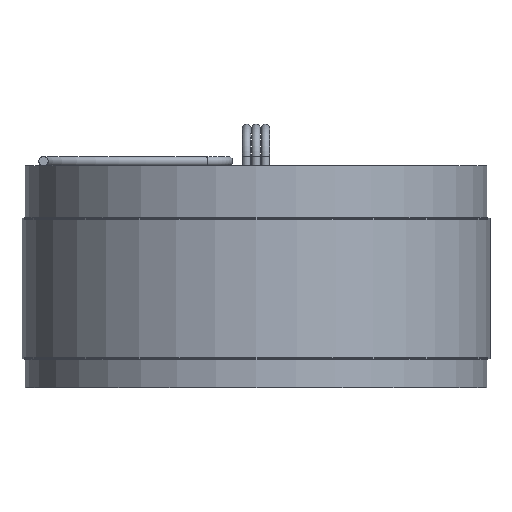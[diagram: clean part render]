
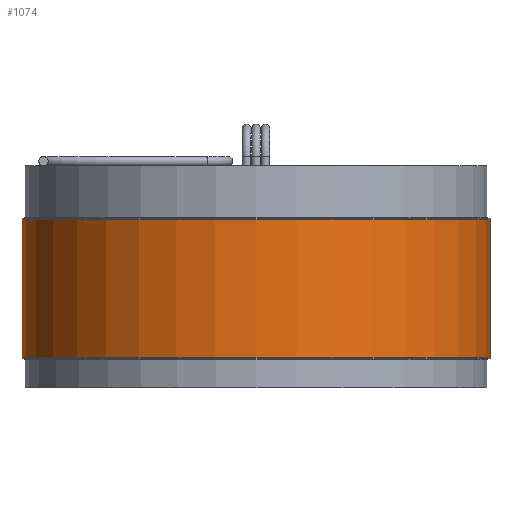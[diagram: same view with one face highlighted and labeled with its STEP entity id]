
A CAD part, front view. The second image highlights one B-rep face of the part: STEP entity #1074.
In plain terms, the highlighted cylindrical face has radius 63.5 mm (diameter 127 mm), a full revolution.
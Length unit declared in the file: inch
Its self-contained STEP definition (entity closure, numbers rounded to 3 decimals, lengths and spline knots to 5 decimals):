
#11 = VERTEX_POINT ( 'NONE', #1113 ) ;
#77 = AXIS2_PLACEMENT_3D ( 'NONE', #874, #200, #961 ) ;
#150 = AXIS2_PLACEMENT_3D ( 'NONE', #656, #212, #316 ) ;
#200 = DIRECTION ( 'NONE',  ( 0., 0., 1. ) ) ;
#212 = DIRECTION ( 'NONE',  ( 0., 0., 1. ) ) ;
#256 = AXIS2_PLACEMENT_3D ( 'NONE', #1402, #1418, #394 ) ;
#289 = VERTEX_POINT ( 'NONE', #1232 ) ;
#316 = DIRECTION ( 'NONE',  ( 1., 0., 0. ) ) ;
#365 = FACE_OUTER_BOUND ( 'NONE', #974, .T. ) ;
#394 = DIRECTION ( 'NONE',  ( 1., 0., 0. ) ) ;
#656 = CARTESIAN_POINT ( 'NONE',  ( 0., 0., 0.74213 ) ) ;
#660 = CIRCLE ( 'NONE', #77, 2.5 ) ;
#663 = FACE_OUTER_BOUND ( 'NONE', #856, .T. ) ;
#685 = ORIENTED_EDGE ( 'NONE', *, *, #1180, .F. ) ;
#767 = CYLINDRICAL_SURFACE ( 'NONE', #256, 2.5 ) ;
#856 = EDGE_LOOP ( 'NONE', ( #685 ) ) ;
#874 = CARTESIAN_POINT ( 'NONE',  ( 0., 0., -0.74213 ) ) ;
#922 = ORIENTED_EDGE ( 'NONE', *, *, #1319, .T. ) ;
#961 = DIRECTION ( 'NONE',  ( 1., 0., 0. ) ) ;
#974 = EDGE_LOOP ( 'NONE', ( #922 ) ) ;
#1074 = ADVANCED_FACE ( 'NONE', ( #663, #365 ), #767, .T. ) ;
#1113 = CARTESIAN_POINT ( 'NONE',  ( 2.5, 0., -0.74213 ) ) ;
#1180 = EDGE_CURVE ( 'NONE', #289, #289, #1341, .T. ) ;
#1232 = CARTESIAN_POINT ( 'NONE',  ( 2.5, 0., 0.74213 ) ) ;
#1319 = EDGE_CURVE ( 'NONE', #11, #11, #660, .T. ) ;
#1341 = CIRCLE ( 'NONE', #150, 2.5 ) ;
#1402 = CARTESIAN_POINT ( 'NONE',  ( 0., 0., -0.76 ) ) ;
#1418 = DIRECTION ( 'NONE',  ( 0., 0., 1. ) ) ;
